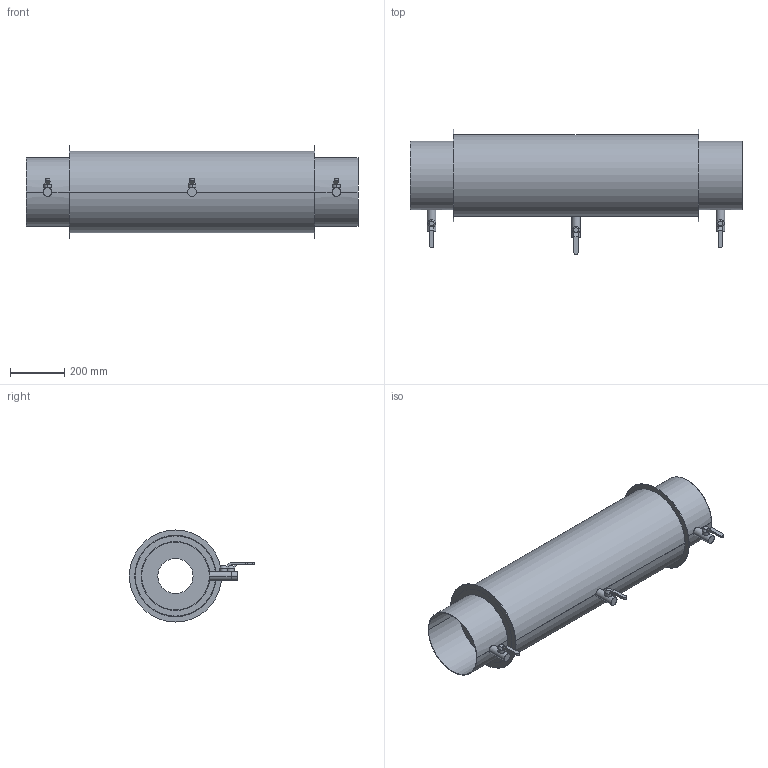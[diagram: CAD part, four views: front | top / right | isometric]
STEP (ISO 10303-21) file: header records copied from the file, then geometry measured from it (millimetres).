
FILE_DESCRIPTION((''),'2;1');
FILE_NAME('51541238','2020-10-08T07:55:44',('slc'),('HUBER SE'),'CREO PARAMETRIC BY PTC INC, 2019224','CREO PARAMETRIC BY PTC INC, 2019224','');
FILE_SCHEMA(('AUTOMOTIVE_DESIGN { 1 0 10303 214 1 1 1 1 }'));
Length unit declared in the file: millimetre
Products named in the file (1): 51541238
Bounding box: 1225 x 462 x 340 mm (x, y, z)
Volume: 2756016.5 mm3; surface area: 2551751.8 mm2
Topology: 8 solids, 8 shells, 85 faces, 173 edges, 112 vertices
Faces by surface type: plane 44, cylinder 35, cone 6
Entity records: 2936 total; most frequent: CARTESIAN_POINT 582, DIRECTION 411, ORIENTED_EDGE 346, EDGE_CURVE 173, AXIS2_PLACEMENT_3D 157, VERTEX_POINT 112, COLOUR_RGB 106, VECTOR 97
